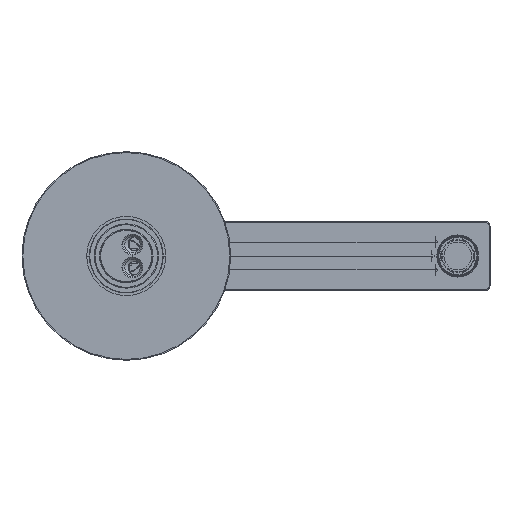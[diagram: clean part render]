
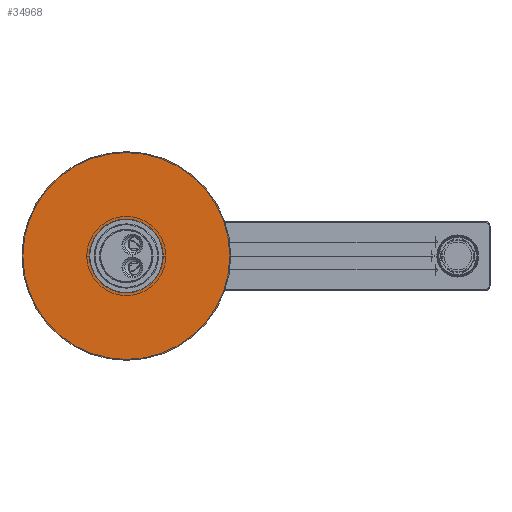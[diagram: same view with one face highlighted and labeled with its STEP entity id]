
A CAD part, front view. The second image highlights one B-rep face of the part: STEP entity #34968.
In plain terms, the highlighted planar face has unit normal (0, -1, 0).
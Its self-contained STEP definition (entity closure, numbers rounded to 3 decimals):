
#34696=CARTESIAN_POINT('',(0.,-1030.,0.));
#34697=DIRECTION('',(0.,1.,0.));
#34698=DIRECTION('',(-1.,0.,0.));
#34699=AXIS2_PLACEMENT_3D('',#34696,#34697,#34698);
#34701=CARTESIAN_POINT('',(0.,-1030.,0.));
#34702=DIRECTION('',(0.,1.,0.));
#34703=DIRECTION('',(1.,0.,0.));
#34704=AXIS2_PLACEMENT_3D('',#34701,#34702,#34703);
#34706=CARTESIAN_POINT('',(0.,-1030.,0.));
#34707=DIRECTION('',(0.,-1.,0.));
#34708=DIRECTION('',(-1.,0.,0.));
#34709=AXIS2_PLACEMENT_3D('',#34706,#34707,#34708);
#34711=CARTESIAN_POINT('',(0.,-1030.,0.));
#34712=DIRECTION('',(0.,-1.,0.));
#34713=DIRECTION('',(1.,0.,0.));
#34714=AXIS2_PLACEMENT_3D('',#34711,#34712,#34713);
#34792=CARTESIAN_POINT('',(-21.25,-1030.,0.));
#34793=CARTESIAN_POINT('',(21.25,-1030.,0.));
#34794=VERTEX_POINT('',#34792);
#34795=VERTEX_POINT('',#34793);
#34796=CARTESIAN_POINT('',(-60.,-1030.,0.));
#34797=CARTESIAN_POINT('',(60.,-1030.,0.));
#34798=VERTEX_POINT('',#34796);
#34799=VERTEX_POINT('',#34797);
#34953=CARTESIAN_POINT('',(0.,-1030.,0.));
#34954=DIRECTION('',(0.,1.,0.));
#34955=DIRECTION('',(-1.,0.,0.));
#34956=AXIS2_PLACEMENT_3D('',#34953,#34954,#34955);
#34957=PLANE('',#34956);
#34959=ORIENTED_EDGE('',*,*,#34958,.T.);
#34961=ORIENTED_EDGE('',*,*,#34960,.T.);
#34962=EDGE_LOOP('',(#34959,#34961));
#34963=FACE_OUTER_BOUND('',#34962,.F.);
#34964=ORIENTED_EDGE('',*,*,#34933,.T.);
#34965=ORIENTED_EDGE('',*,*,#34947,.T.);
#34966=EDGE_LOOP('',(#34964,#34965));
#34967=FACE_BOUND('',#34966,.F.);
#34968=ADVANCED_FACE('',(#34963,#34967),#34957,.F.);
#34700=CIRCLE('',#34699,60.);
#34705=CIRCLE('',#34704,60.);
#34710=CIRCLE('',#34709,21.25);
#34715=CIRCLE('',#34714,21.25);
#34933=EDGE_CURVE('',#34794,#34795,#34710,.T.);
#34947=EDGE_CURVE('',#34795,#34794,#34715,.T.);
#34958=EDGE_CURVE('',#34798,#34799,#34700,.T.);
#34960=EDGE_CURVE('',#34799,#34798,#34705,.T.);
